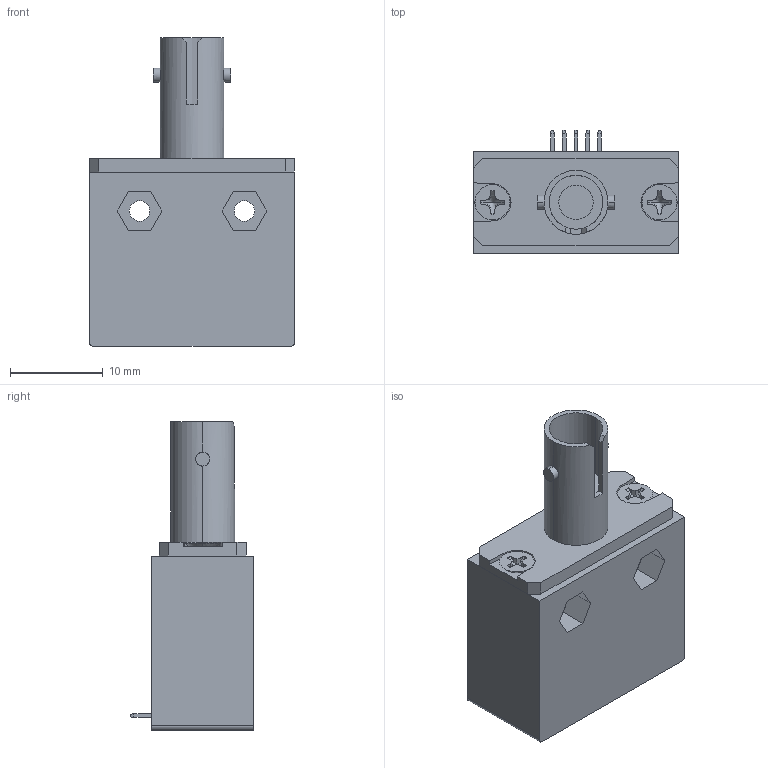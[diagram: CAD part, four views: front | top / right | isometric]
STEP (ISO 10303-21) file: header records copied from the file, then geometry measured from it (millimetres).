
FILE_DESCRIPTION (( 'STEP AP214' ), '1' );
FILE_NAME ('SLD-FGA-0053B-A FTX-001-OEM-WEB.STEP', '2019-02-12T01:07:15', ( '' ), ( '' ), 'SwSTEP 2.0', 'SolidWorks 2017', '' );
FILE_SCHEMA (( 'AUTOMOTIVE_DESIGN' ));
Length unit declared in the file: millimetre
Products named in the file (1): SLD-FGA-0053B-A FTX-001-OEM-WEB
Bounding box: 22.2 x 13.3 x 33.3 mm (x, y, z)
Surface area: 2665.4 mm2 (no closed solid volume)
Topology: 0 solids, 4 shells, 158 faces, 417 edges, 270 vertices
Faces by surface type: plane 123, cone 18, cylinder 17
Entity records: 6683 total; most frequent: CARTESIAN_POINT 1086, ORIENTED_EDGE 806, DIRECTION 747, EDGE_CURVE 413, VECTOR 285, LINE 285, VERTEX_POINT 270, AXIS2_PLACEMENT_3D 231
